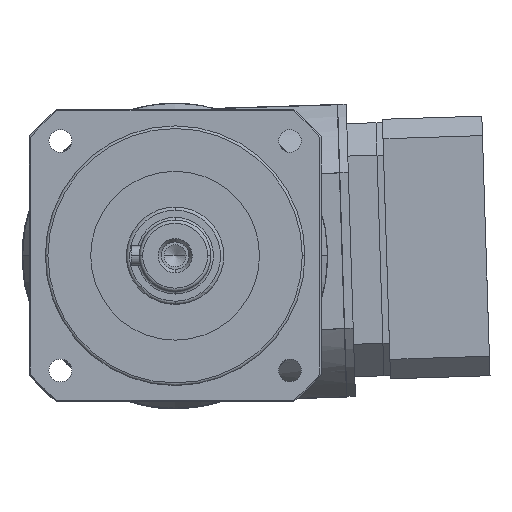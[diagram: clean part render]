
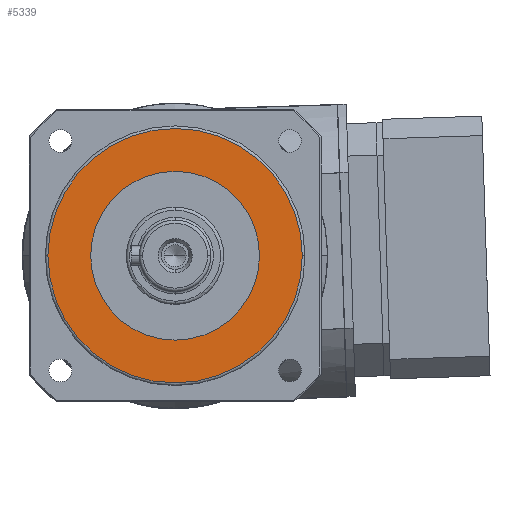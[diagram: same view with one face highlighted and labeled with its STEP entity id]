
A CAD part, left-side view. The second image highlights one B-rep face of the part: STEP entity #5339.
In plain terms, the highlighted planar face has unit normal (-1, 0, 0).
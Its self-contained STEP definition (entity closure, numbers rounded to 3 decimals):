
#2394 = DIRECTION ( 'NONE',  ( -1., 0., 0. ) ) ;
#2659 = CARTESIAN_POINT ( 'NONE',  ( -60., 0., 26. ) ) ;
#5339 = ADVANCED_FACE ( 'NONE', ( #25992, #36617 ), #38155, .F. ) ;
#7883 = EDGE_CURVE ( 'NONE', #15414, #23174, #18594, .T. ) ;
#8162 = VERTEX_POINT ( 'NONE', #40040 ) ;
#10730 = AXIS2_PLACEMENT_3D ( 'NONE', #24286, #2394, #27791 ) ;
#12249 = DIRECTION ( 'NONE',  ( 1., 0., 0. ) ) ;
#13473 = EDGE_LOOP ( 'NONE', ( #37275, #31581 ) ) ;
#13969 = CIRCLE ( 'NONE', #10730, 26. ) ;
#14847 = DIRECTION ( 'NONE',  ( 0., -1., 0. ) ) ;
#15414 = VERTEX_POINT ( 'NONE', #31744 ) ;
#18594 = CIRCLE ( 'NONE', #33040, 39.2 ) ;
#19046 = EDGE_CURVE ( 'NONE', #37253, #8162, #45938, .T. ) ;
#21091 = DIRECTION ( 'NONE',  ( 1., 0., 0. ) ) ;
#23174 = VERTEX_POINT ( 'NONE', #32932 ) ;
#23504 = AXIS2_PLACEMENT_3D ( 'NONE', #23746, #23680, #23578 ) ;
#23578 = DIRECTION ( 'NONE',  ( 0., 0., 1. ) ) ;
#23680 = DIRECTION ( 'NONE',  ( -1., 0., 0. ) ) ;
#23746 = CARTESIAN_POINT ( 'NONE',  ( -60., 0., 0. ) ) ;
#24286 = CARTESIAN_POINT ( 'NONE',  ( -60., 0., 0. ) ) ;
#25992 = FACE_BOUND ( 'NONE', #13473, .T. ) ;
#26585 = CARTESIAN_POINT ( 'NONE',  ( -60., 0., 0. ) ) ;
#27791 = DIRECTION ( 'NONE',  ( 0., 0., 1. ) ) ;
#29113 = ORIENTED_EDGE ( 'NONE', *, *, #32292, .F. ) ;
#29416 = AXIS2_PLACEMENT_3D ( 'NONE', #42218, #21091, #45776 ) ;
#31079 = EDGE_LOOP ( 'NONE', ( #31578, #29113 ) ) ;
#31578 = ORIENTED_EDGE ( 'NONE', *, *, #7883, .F. ) ;
#31581 = ORIENTED_EDGE ( 'NONE', *, *, #36574, .F. ) ;
#31744 = CARTESIAN_POINT ( 'NONE',  ( -60., -39.2, 0. ) ) ;
#32292 = EDGE_CURVE ( 'NONE', #23174, #15414, #46197, .T. ) ;
#32629 = AXIS2_PLACEMENT_3D ( 'NONE', #37804, #37750, #37692 ) ;
#32932 = CARTESIAN_POINT ( 'NONE',  ( -60., 39.2, 0. ) ) ;
#33040 = AXIS2_PLACEMENT_3D ( 'NONE', #26585, #12249, #14847 ) ;
#36574 = EDGE_CURVE ( 'NONE', #8162, #37253, #13969, .T. ) ;
#36617 = FACE_OUTER_BOUND ( 'NONE', #31079, .T. ) ;
#37253 = VERTEX_POINT ( 'NONE', #2659 ) ;
#37275 = ORIENTED_EDGE ( 'NONE', *, *, #19046, .F. ) ;
#37692 = DIRECTION ( 'NONE',  ( 0., 0., -1. ) ) ;
#37750 = DIRECTION ( 'NONE',  ( 1., 0., 0. ) ) ;
#37804 = CARTESIAN_POINT ( 'NONE',  ( -60., 0., 0. ) ) ;
#38155 = PLANE ( 'NONE',  #32629 ) ;
#40040 = CARTESIAN_POINT ( 'NONE',  ( -60., 0., -26. ) ) ;
#42218 = CARTESIAN_POINT ( 'NONE',  ( -60., 0., 0. ) ) ;
#45776 = DIRECTION ( 'NONE',  ( 0., -1., 0. ) ) ;
#45938 = CIRCLE ( 'NONE', #23504, 26. ) ;
#46197 = CIRCLE ( 'NONE', #29416, 39.2 ) ;
